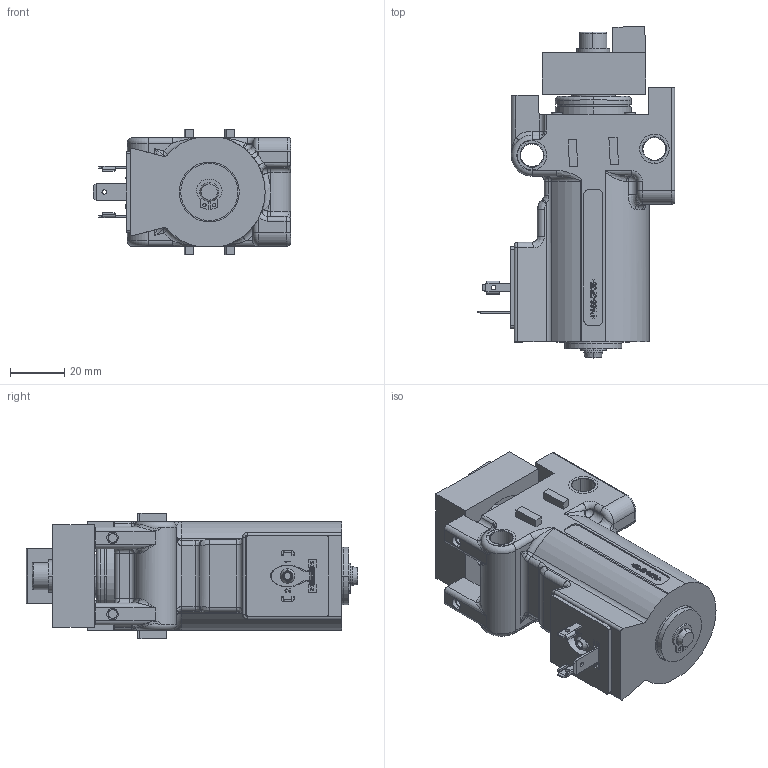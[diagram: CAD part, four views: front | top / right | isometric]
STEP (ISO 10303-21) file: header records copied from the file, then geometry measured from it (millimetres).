
FILE_DESCRIPTION((''),'2;1');
FILE_NAME('STP_ASM','2022-09-09T10:34:36',('j.guenther'),(''),'CREO PARAMETRIC BY PTC INC, 2020044','CREO PARAMETRIC BY PTC INC, 2020044','');
FILE_SCHEMA(('AUTOMOTIVE_DESIGN { 1 0 10303 214 1 1 1 1 }'));
Products named in the file (37): 100000068852_Z03_000_AF0; 100000060237_Z03_000_AF0; 100000060260_Z03_000_AF0; 100000060315_Z03_000_AF0_ASM; 100000066740_Z03_000_AF0; 100000060316_Z03_000_AF0_ASM; 100000060378_Z03_000_AF0; 100000058728_Z03_000_AF0; 100000070295_Z03_000_AF0_ASM; 100000060903_Z03_000_AF0; 100000060488_Z03_000; 100000060956_Z03_000; 100000060957_Z03_000_AF0_ASM; 100000060889_Z03_000_AF0; 100000058728_Z03_000_AF1; 100000070293_Z03_000_AF0_ASM; 100000070294_Z03_000_AF0_ASM; 100000036703_Z03_000_AF0; 100000036703_Z03_000_AF1; 100000068769_Z03_000_AF0; 100000094116_Z03_000_AF0_ASM; 100000094107_Z03_000_AF0; 100000072605_Z03_000_AF0; 100000069715_Z03_000_AF0; 100000069715_Z03_000_AF1; 100000069715_Z03_000_AF2; 100000069715_Z03_000_AF3; 100000094110_Z03_000_AF0; 100000094112_Z03_000; 100000072549_Z03_000; 100000069503_Z03_000; 100000094114_Z03_000_AF0_ASM; 100000072614_Z03_000; 100000068752_Z03_000; 100000068754_Z03_000; 100000072640_Z03_000_AF0; STP_ASM
Assembly tree (36 placements, depth 8):
  STP_ASM
    100000094116_Z03_000_AF0_ASM
      100000068852_Z03_000_AF0
      100000070294_Z03_000_AF0_ASM
        100000070293_Z03_000_AF0_ASM
          100000070295_Z03_000_AF0_ASM
            100000060316_Z03_000_AF0_ASM
              100000060315_Z03_000_AF0_ASM
                100000060237_Z03_000_AF0
                100000060260_Z03_000_AF0
              100000066740_Z03_000_AF0
            100000060378_Z03_000_AF0
            100000058728_Z03_000_AF0
          100000060957_Z03_000_AF0_ASM
            100000060903_Z03_000_AF0
            100000060488_Z03_000
            100000060956_Z03_000
          100000060889_Z03_000_AF0
          100000058728_Z03_000_AF1
      100000036703_Z03_000_AF0
      100000036703_Z03_000_AF1
      100000068769_Z03_000_AF0
    100000094107_Z03_000_AF0
    100000072605_Z03_000_AF0
    100000069715_Z03_000_AF0
    100000069715_Z03_000_AF1
    100000069715_Z03_000_AF2
    100000069715_Z03_000_AF3
    100000094114_Z03_000_AF0_ASM
      100000094110_Z03_000_AF0
      100000094112_Z03_000
      100000072549_Z03_000
      100000069503_Z03_000
    100000072614_Z03_000
    100000068752_Z03_000
    100000068754_Z03_000
    100000072640_Z03_000_AF0
Bounding box: 72.49 x 121.95 x 46 mm (x, y, z)
Volume: 95336.7 mm3; surface area: 65296.4 mm2
Topology: 40 solids, 40 shells, 3631 faces, 9776 edges, 6351 vertices
Faces by surface type: plane 2550, cylinder 629, bspline 234, torus 95, cone 66, sphere 51, extrusion 6
Entity records: 158576 total; most frequent: CARTESIAN_POINT 37491, ORIENTED_EDGE 19540, DIRECTION 17436, EDGE_CURVE 9770, PRESENTATION_STYLE_ASSIGNMENT 9251, STYLED_ITEM 9092, CURVE_STYLE 9055, VECTOR 7670
